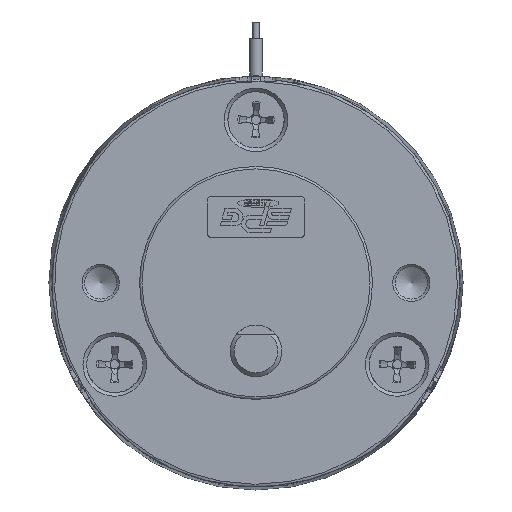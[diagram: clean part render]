
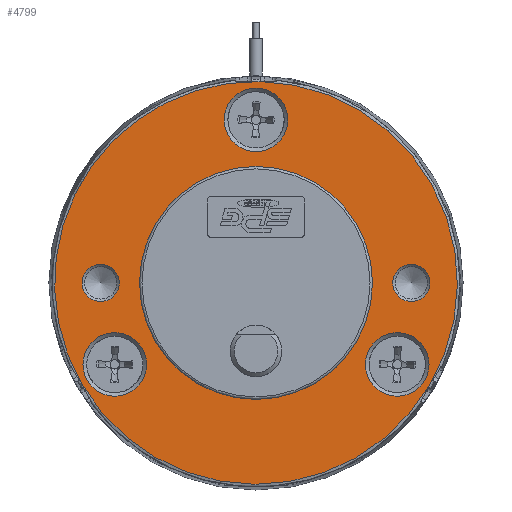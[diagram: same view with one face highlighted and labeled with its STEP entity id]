
A CAD part, front view. The second image highlights one B-rep face of the part: STEP entity #4799.
In plain terms, the highlighted planar face has unit normal (0, -1, 0).
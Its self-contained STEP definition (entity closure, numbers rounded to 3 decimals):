
#4713=CARTESIAN_POINT('',(-17.918,19.05,10.37));
#4714=VERTEX_POINT('',#4713);
#4715=CARTESIAN_POINT('',(-20.199,19.05,10.37));
#4716=DIRECTION('',(0.0,-1.0,0.0));
#4717=DIRECTION('',(-1.0,0.0,0.0));
#4718=AXIS2_PLACEMENT_3D('',#4715,#4716,#4717);
#4719=CIRCLE('',#4718,2.281);
#4720=EDGE_CURVE('',#4714,#4714,#4719,.T.);
#4725=CARTESIAN_POINT('',(-1.149,19.05,10.37));
#4726=DIRECTION('',(0.0,1.0,0.0));
#4727=DIRECTION('',(0.0,0.0,1.0));
#4728=AXIS2_PLACEMENT_3D('',#4725,#4726,#4727);
#4729=PLANE('',#4728);
#4730=CARTESIAN_POINT('',(-22.543,19.05,-1.982));
#4731=VERTEX_POINT('',#4730);
#4732=CARTESIAN_POINT('',(-1.149,19.05,10.37));
#4733=DIRECTION('',(0.0,1.0,0.0));
#4734=DIRECTION('',(0.866,0.0,0.5));
#4735=AXIS2_PLACEMENT_3D('',#4732,#4733,#4734);
#4736=CIRCLE('',#4735,24.704);
#4737=EDGE_CURVE('',#4731,#4731,#4736,.T.);
#4738=ORIENTED_EDGE('',*,*,#4737,.F.);
#4739=EDGE_LOOP('',(#4738));
#4740=FACE_OUTER_BOUND('',#4739,.T.);
#4741=CARTESIAN_POINT('',(20.182,19.05,10.37));
#4742=VERTEX_POINT('',#4741);
#4743=CARTESIAN_POINT('',(17.901,19.05,10.37));
#4744=DIRECTION('',(0.0,-1.0,0.0));
#4745=DIRECTION('',(-1.0,0.0,0.0));
#4746=AXIS2_PLACEMENT_3D('',#4743,#4744,#4745);
#4747=CIRCLE('',#4746,2.281);
#4748=EDGE_CURVE('',#4742,#4742,#4747,.T.);
#4749=ORIENTED_EDGE('',*,*,#4748,.F.);
#4750=EDGE_LOOP('',(#4749));
#4751=FACE_BOUND('',#4750,.T.);
#4752=CARTESIAN_POINT('',(13.139,19.05,10.37));
#4753=VERTEX_POINT('',#4752);
#4754=CARTESIAN_POINT('',(-1.149,19.05,10.37));
#4755=DIRECTION('',(0.0,1.0,0.0));
#4756=DIRECTION('',(-1.0,0.0,0.0));
#4757=AXIS2_PLACEMENT_3D('',#4754,#4755,#4756);
#4758=CIRCLE('',#4757,14.287);
#4759=EDGE_CURVE('',#4753,#4753,#4758,.T.);
#4760=ORIENTED_EDGE('',*,*,#4759,.T.);
#4761=EDGE_LOOP('',(#4760));
#4762=FACE_BOUND('',#4761,.T.);
#4763=CARTESIAN_POINT('',(-1.149,19.05,34.27));
#4764=VERTEX_POINT('',#4763);
#4765=CARTESIAN_POINT('',(-1.149,19.05,30.37));
#4766=DIRECTION('',(0.0,1.0,0.0));
#4767=DIRECTION('',(0.0,0.0,1.0));
#4768=AXIS2_PLACEMENT_3D('',#4765,#4766,#4767);
#4769=CIRCLE('',#4768,3.9);
#4770=EDGE_CURVE('',#4764,#4764,#4769,.T.);
#4771=ORIENTED_EDGE('',*,*,#4770,.T.);
#4772=EDGE_LOOP('',(#4771));
#4773=FACE_BOUND('',#4772,.T.);
#4774=CARTESIAN_POINT('',(-21.847,19.05,-1.58));
#4775=VERTEX_POINT('',#4774);
#4776=CARTESIAN_POINT('',(-18.469,19.05,0.37));
#4777=DIRECTION('',(0.0,1.0,0.0));
#4778=DIRECTION('',(-0.866,0.0,-0.5));
#4779=AXIS2_PLACEMENT_3D('',#4776,#4777,#4778);
#4780=CIRCLE('',#4779,3.9);
#4781=EDGE_CURVE('',#4775,#4775,#4780,.T.);
#4782=ORIENTED_EDGE('',*,*,#4781,.T.);
#4783=EDGE_LOOP('',(#4782));
#4784=FACE_BOUND('',#4783,.T.);
#4785=CARTESIAN_POINT('',(19.549,19.05,-1.58));
#4786=VERTEX_POINT('',#4785);
#4787=CARTESIAN_POINT('',(16.172,19.05,0.37));
#4788=DIRECTION('',(0.0,1.0,0.0));
#4789=DIRECTION('',(0.866,0.0,-0.5));
#4790=AXIS2_PLACEMENT_3D('',#4787,#4788,#4789);
#4791=CIRCLE('',#4790,3.9);
#4792=EDGE_CURVE('',#4786,#4786,#4791,.T.);
#4793=ORIENTED_EDGE('',*,*,#4792,.T.);
#4794=EDGE_LOOP('',(#4793));
#4795=FACE_BOUND('',#4794,.T.);
#4796=ORIENTED_EDGE('',*,*,#4720,.F.);
#4797=EDGE_LOOP('',(#4796));
#4798=FACE_BOUND('',#4797,.T.);
#4799=ADVANCED_FACE('',(#4740,#4751,#4762,#4773,#4784,#4795,#4798),#4729,.F.);
